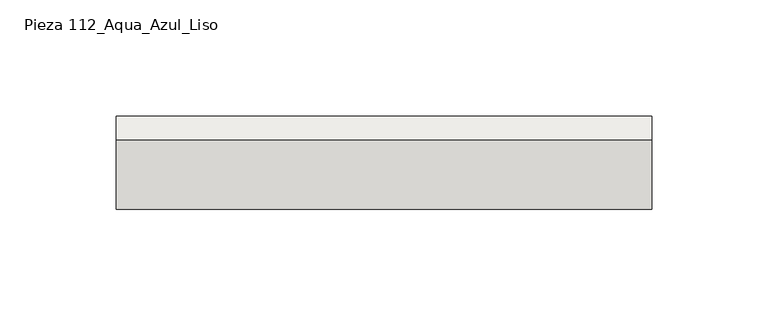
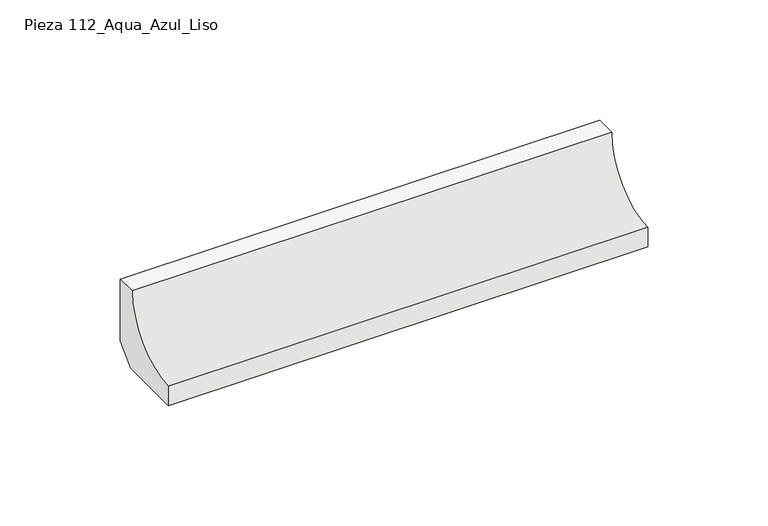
"""IFC4 building model written with IfcOpenShell, lengths in millimetres: slab geometry, ROSA GRES_112 : Pieza 112_Aqua_Azul_Liso."""

from ifc_helpers import new_model, si_unit, point, frame, frame_2d, origin, place, context, project, spatial, polyline, circle_curve, trimmed, segment, composite_curve, outline, extrude, source, transform, mapped, element, save


def pieza_112_aqua_azul_liso_153d0df2(model_context):
    return source(origin(), model_context, "Body", "SweptSolid", [
        extrude(outline(composite_curve([segment(polyline([(0.0, 8.7114978), (-8.7114978, 0.0), (-40.0, 0.0), (-40.0, 9.9734114)]), True, "CONTINUOUS"), segment(trimmed(circle_curve(frame_2d((-39.9955547, 39.9955547)), 30.0221435), [point((-40.0, 9.9734114))], [point((-9.9734114, 40.0))], True, "CARTESIAN"), True, "CONTINUOUS"), segment(polyline([(-9.9734114, 40.0), (0.0, 40.0), (0.0, 8.7114978)]), True, "CONTINUOUS")], self_intersect=False)), frame((0.0, 0.0, 0.0), z_axis=(1.0, 0.0, 0.0), x_axis=(0.0, 1.0, 0.0)), (0.0, 0.0, 1.0), 230.0),
    ])


if __name__ == "__main__":
    model = new_model("IFC4")
    model_context = context("Model", 3, world=origin())
    ifc_project = project(units=[si_unit("LENGTHUNIT", "METRE", prefix="MILLI")], contexts=[model_context])
    site = spatial("IfcSite", under=ifc_project)
    building = spatial("IfcBuilding", under=site)
    placement = place(None, origin())
    pieza_112_aqua_azul_liso_shape = pieza_112_aqua_azul_liso_153d0df2(model_context)
    element("IfcSlab", 1, ObjectType="ROSA GRES_112 : Pieza 112_Aqua_Azul_Liso", at=placement, inside=building, context=model_context, shape_type="MappedRepresentation", body=[
        mapped(pieza_112_aqua_azul_liso_shape, transform((0.0, 0.0, 0.0), x_axis=(1.0, 0.0, 0.0), y_axis=(0.0, 1.0, 0.0), z_axis=(0.0, 0.0, 1.0))),
    ])
    save(model, "model.ifc")
